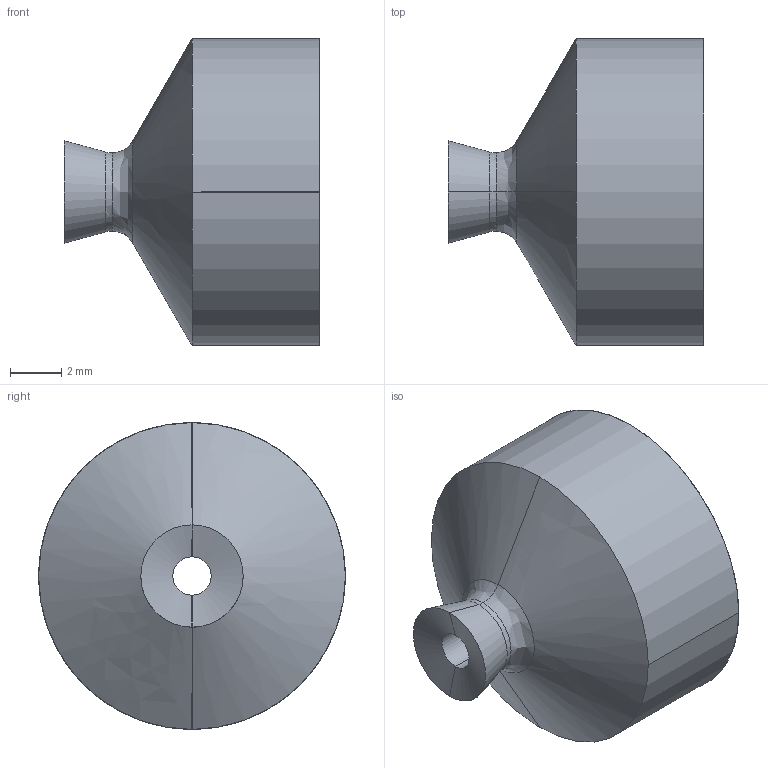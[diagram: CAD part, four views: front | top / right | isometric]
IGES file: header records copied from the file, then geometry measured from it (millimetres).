
Start section: SolidWorks IGES file using analytic representation for surfaces
Global section: file name: C:\Documents and Settings\CAD53\デスクトップ\現在データがないと思われるデータ\IGESデータ\210791.IGS; native system: SolidWorks 2006 by SolidWorks Corporation; preprocessor: SolidWorks 2006 by SolidWorks Corporation; author: CAD53; date: 071019.114001; units: millimetre
Bounding box: 10 x 12 x 12 mm (x, y, z)
Surface area: 650.5 mm2 (no closed solid volume)
Topology: 0 solids, 0 shells, 21 faces, 282 edges, 282 vertices
Faces by surface type: revolution 14, bspline 7
